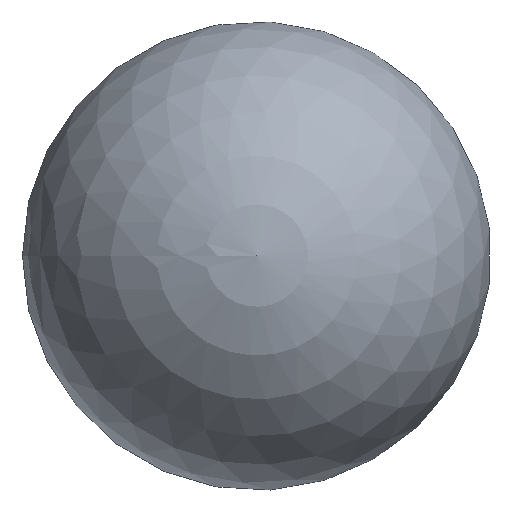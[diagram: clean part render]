
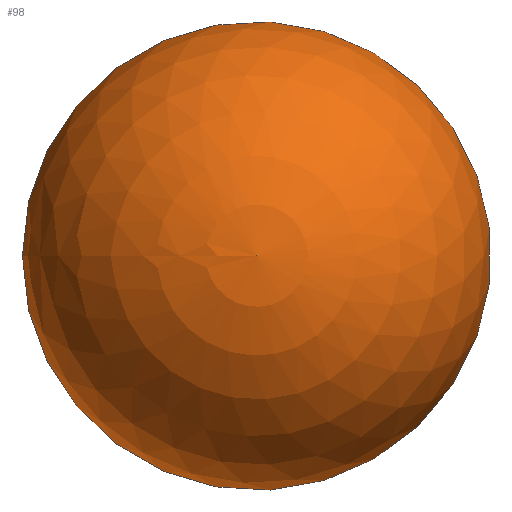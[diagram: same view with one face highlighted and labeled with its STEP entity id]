
A CAD part, top view. The second image highlights one B-rep face of the part: STEP entity #98.
In plain terms, the highlighted spherical face has radius 150 mm.
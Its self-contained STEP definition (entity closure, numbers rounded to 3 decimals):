
#30=FACE_OUTER_BOUND('',#36,.T.);
#36=EDGE_LOOP('',(#73,#74,#75,#76));
#42=CIRCLE('',#123,41.414);
#43=CIRCLE('',#124,150.);
#44=CIRCLE('',#125,41.414);
#51=VERTEX_POINT('',#178);
#52=VERTEX_POINT('',#179);
#53=VERTEX_POINT('',#181);
#63=EDGE_CURVE('',#51,#52,#42,.T.);
#64=EDGE_CURVE('',#53,#51,#43,.T.);
#65=EDGE_CURVE('',#52,#51,#44,.T.);
#73=ORIENTED_EDGE('',*,*,#63,.F.);
#74=ORIENTED_EDGE('',*,*,#64,.F.);
#75=ORIENTED_EDGE('',*,*,#64,.T.);
#76=ORIENTED_EDGE('',*,*,#65,.F.);
#93=SPHERICAL_SURFACE('',#122,150.);
#98=ADVANCED_FACE('',(#30),#93,.T.);
#122=AXIS2_PLACEMENT_3D('',#177,#142,#143);
#123=AXIS2_PLACEMENT_3D('',#180,#144,#145);
#124=AXIS2_PLACEMENT_3D('',#182,#146,#147);
#125=AXIS2_PLACEMENT_3D('',#183,#148,#149);
#142=DIRECTION('center_axis',(0.,0.,
1.));
#143=DIRECTION('ref_axis',(1.,0.,0.));
#144=DIRECTION('center_axis',(0.,0.,-1.));
#145=DIRECTION('ref_axis',(1.,0.,0.));
#146=DIRECTION('center_axis',(0.,-1.,0.));
#147=DIRECTION('ref_axis',(-1.,0.,0.));
#148=DIRECTION('center_axis',(0.,0.,-1.));
#149=DIRECTION('ref_axis',(1.,0.,0.));
#177=CARTESIAN_POINT('Origin',(0.,0.,144.17));
#178=CARTESIAN_POINT('',(-41.414,0.,0.));
#179=CARTESIAN_POINT('',(41.414,0.,0.));
#180=CARTESIAN_POINT('Origin',(0.,0.,0.));
#181=CARTESIAN_POINT('',(0.,0.,294.17));
#182=CARTESIAN_POINT('Origin',(0.,0.,144.17));
#183=CARTESIAN_POINT('Origin',(0.,0.,0.));
